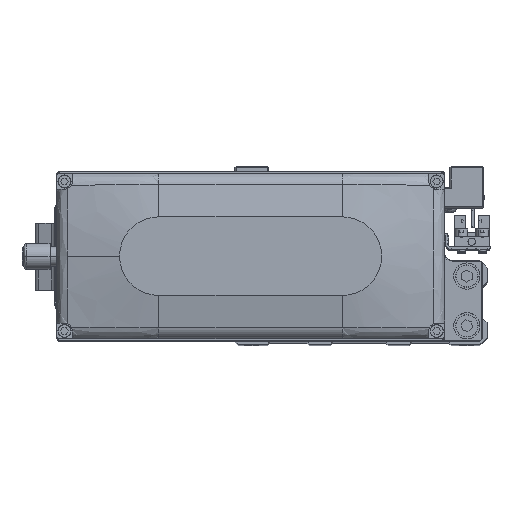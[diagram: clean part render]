
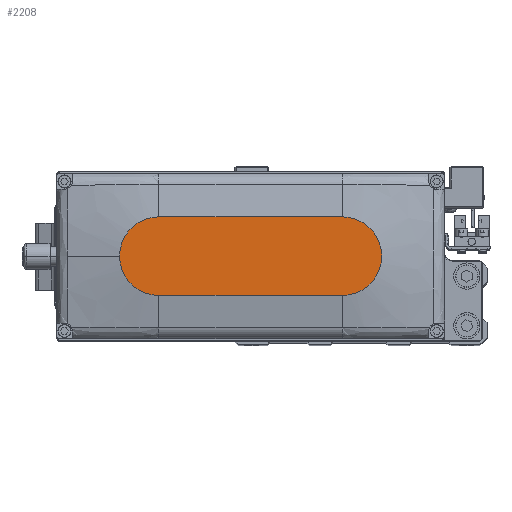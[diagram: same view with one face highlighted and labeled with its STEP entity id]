
A CAD part, top view. The second image highlights one B-rep face of the part: STEP entity #2208.
In plain terms, the highlighted planar face has unit normal (0, 0, 1).
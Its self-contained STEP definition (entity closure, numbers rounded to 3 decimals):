
#215 = DIRECTION ( 'NONE',  ( 1., 0., 0. ) ) ;
#629 = AXIS2_PLACEMENT_3D ( 'NONE', #5664, #17841, #30061 ) ;
#966 = EDGE_CURVE ( 'NONE', #16656, #7803, #15827, .T. ) ;
#1895 = EDGE_LOOP ( 'NONE', ( #4413, #12712, #26715, #39246, #32010 ) ) ;
#2208 = ADVANCED_FACE ( 'NONE', ( #30604 ), #3230, .T. ) ;
#3230 = PLANE ( 'NONE',  #24820 ) ;
#4413 = ORIENTED_EDGE ( 'NONE', *, *, #38467, .T. ) ;
#4853 = DIRECTION ( 'NONE',  ( 0., 0., 1. ) ) ;
#5664 = CARTESIAN_POINT ( 'NONE',  ( 35., 0., 35. ) ) ;
#7116 = DIRECTION ( 'NONE',  ( 0., 0., 1. ) ) ;
#7329 = VECTOR ( 'NONE', #33592, 1000. ) ;
#7803 = VERTEX_POINT ( 'NONE', #28495 ) ;
#9162 = LINE ( 'NONE', #21324, #7329 ) ;
#10933 = EDGE_CURVE ( 'NONE', #18397, #12414, #35737, .T. ) ;
#12414 = VERTEX_POINT ( 'NONE', #15807 ) ;
#12549 = LINE ( 'NONE', #24710, #34828 ) ;
#12712 = ORIENTED_EDGE ( 'NONE', *, *, #10933, .T. ) ;
#15379 = CARTESIAN_POINT ( 'NONE',  ( 0., 0., 35. ) ) ;
#15807 = CARTESIAN_POINT ( 'NONE',  ( -35., -15., 35. ) ) ;
#15827 = CIRCLE ( 'NONE', #38256, 15. ) ;
#16050 = EDGE_CURVE ( 'NONE', #17288, #16656, #17814, .T. ) ;
#16093 = CARTESIAN_POINT ( 'NONE',  ( -35., 15., 35. ) ) ;
#16656 = VERTEX_POINT ( 'NONE', #28331 ) ;
#17022 = DIRECTION ( 'NONE',  ( 1., 0., 0. ) ) ;
#17288 = VERTEX_POINT ( 'NONE', #35510 ) ;
#17814 = CIRCLE ( 'NONE', #629, 15. ) ;
#17841 = DIRECTION ( 'NONE',  ( 0., 0., 1. ) ) ;
#18397 = VERTEX_POINT ( 'NONE', #16093 ) ;
#18430 = AXIS2_PLACEMENT_3D ( 'NONE', #38751, #4853, #17022 ) ;
#19286 = DIRECTION ( 'NONE',  ( 1., 0., 0. ) ) ;
#21324 = CARTESIAN_POINT ( 'NONE',  ( -35., -15., 35. ) ) ;
#24710 = CARTESIAN_POINT ( 'NONE',  ( -35., 15., 35. ) ) ;
#24820 = AXIS2_PLACEMENT_3D ( 'NONE', #15379, #27579, #215 ) ;
#26715 = ORIENTED_EDGE ( 'NONE', *, *, #34255, .T. ) ;
#27579 = DIRECTION ( 'NONE',  ( 0., 0., 1. ) ) ;
#28331 = CARTESIAN_POINT ( 'NONE',  ( 50., 0., 35. ) ) ;
#28495 = CARTESIAN_POINT ( 'NONE',  ( 35., 15., 35. ) ) ;
#30061 = DIRECTION ( 'NONE',  ( 1., 0., 0. ) ) ;
#30604 = FACE_OUTER_BOUND ( 'NONE', #1895, .T. ) ;
#32010 = ORIENTED_EDGE ( 'NONE', *, *, #966, .T. ) ;
#33592 = DIRECTION ( 'NONE',  ( 1., 0., 0. ) ) ;
#34255 = EDGE_CURVE ( 'NONE', #12414, #17288, #9162, .T. ) ;
#34564 = CARTESIAN_POINT ( 'NONE',  ( 35., 0., 35. ) ) ;
#34828 = VECTOR ( 'NONE', #37014, 1000. ) ;
#35510 = CARTESIAN_POINT ( 'NONE',  ( 35., -15., 35. ) ) ;
#35737 = CIRCLE ( 'NONE', #18430, 15. ) ;
#37014 = DIRECTION ( 'NONE',  ( -1., 0., 0. ) ) ;
#38256 = AXIS2_PLACEMENT_3D ( 'NONE', #34564, #7116, #19286 ) ;
#38467 = EDGE_CURVE ( 'NONE', #7803, #18397, #12549, .T. ) ;
#38751 = CARTESIAN_POINT ( 'NONE',  ( -35., 0., 35. ) ) ;
#39246 = ORIENTED_EDGE ( 'NONE', *, *, #16050, .T. ) ;
